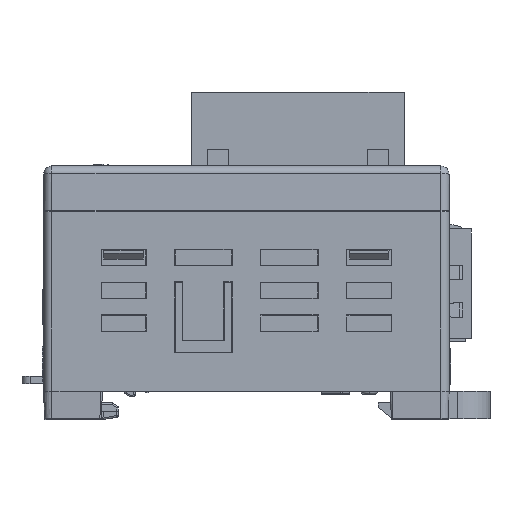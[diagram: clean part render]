
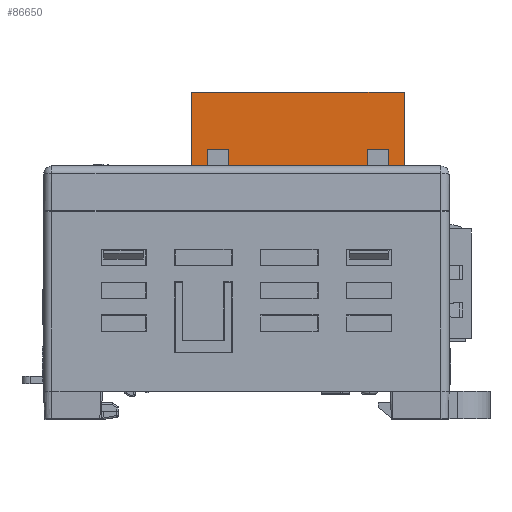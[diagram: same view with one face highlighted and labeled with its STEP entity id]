
A CAD part, left-side view. The second image highlights one B-rep face of the part: STEP entity #86650.
In plain terms, the highlighted planar face has unit normal (-1, 0, 0).
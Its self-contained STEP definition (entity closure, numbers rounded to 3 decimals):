
#954=DIRECTION('',(0.,0.,1.));
#955=VECTOR('',#954,12.5);
#956=CARTESIAN_POINT('',(-13.22,6.65,27.5));
#957=LINE('',#956,#955);
#1918=DIRECTION('',(0.,1.,0.));
#1919=VECTOR('',#1918,1.);
#1920=CARTESIAN_POINT('',(-13.22,-19.25,27.5));
#1921=LINE('',#1920,#1919);
#1934=DIRECTION('',(0.,1.,0.));
#1935=VECTOR('',#1934,1.);
#1936=CARTESIAN_POINT('',(-13.22,-13.3,27.5));
#1937=LINE('',#1936,#1935);
#1950=DIRECTION('',(0.,1.,0.));
#1951=VECTOR('',#1950,1.);
#1952=CARTESIAN_POINT('',(-13.22,-6.8,27.5));
#1953=LINE('',#1952,#1951);
#1966=DIRECTION('',(0.,1.,0.));
#1967=VECTOR('',#1966,1.);
#1968=CARTESIAN_POINT('',(-13.22,-0.3,27.5));
#1969=LINE('',#1968,#1967);
#1982=DIRECTION('',(0.,1.,0.));
#1983=VECTOR('',#1982,1.);
#1984=CARTESIAN_POINT('',(-13.22,5.65,27.5));
#1985=LINE('',#1984,#1983);
#9132=DIRECTION('',(0.,-1.,0.));
#9133=VECTOR('',#9132,0.9);
#9134=CARTESIAN_POINT('',(-13.22,-17.35,28.));
#9135=LINE('',#9134,#9133);
#9136=DIRECTION('',(0.,-1.,0.));
#9137=VECTOR('',#9136,2.6);
#9138=CARTESIAN_POINT('',(-13.22,-14.75,33.));
#9139=LINE('',#9138,#9137);
#9140=DIRECTION('',(0.,0.,1.));
#9141=VECTOR('',#9140,5.);
#9142=CARTESIAN_POINT('',(-13.22,-14.75,28.));
#9143=LINE('',#9142,#9141);
#9144=DIRECTION('',(0.,-1.,0.));
#9145=VECTOR('',#9144,1.45);
#9146=CARTESIAN_POINT('',(-13.22,-13.3,28.));
#9147=LINE('',#9146,#9145);
#9148=DIRECTION('',(0.,-1.,0.));
#9149=VECTOR('',#9148,5.5);
#9150=CARTESIAN_POINT('',(-13.22,-6.8,28.));
#9151=LINE('',#9150,#9149);
#9152=DIRECTION('',(0.,-1.,0.));
#9153=VECTOR('',#9152,5.5);
#9154=CARTESIAN_POINT('',(-13.22,-0.3,28.));
#9155=LINE('',#9154,#9153);
#9156=DIRECTION('',(0.,-1.,0.));
#9157=VECTOR('',#9156,1.45);
#9158=CARTESIAN_POINT('',(-13.22,2.15,28.));
#9159=LINE('',#9158,#9157);
#9160=DIRECTION('',(0.,-1.,0.));
#9161=VECTOR('',#9160,0.9);
#9162=CARTESIAN_POINT('',(-13.22,5.65,28.));
#9163=LINE('',#9162,#9161);
#9172=DIRECTION('',(0.,0.,1.));
#9173=VECTOR('',#9172,0.5);
#9174=CARTESIAN_POINT('',(-13.22,-18.25,27.5));
#9175=LINE('',#9174,#9173);
#9188=DIRECTION('',(0.,0.,-1.));
#9189=VECTOR('',#9188,12.5);
#9190=CARTESIAN_POINT('',(-13.22,-19.25,40.));
#9191=LINE('',#9190,#9189);
#9564=DIRECTION('',(0.,0.,-1.));
#9565=VECTOR('',#9564,5.);
#9566=CARTESIAN_POINT('',(-13.22,-17.35,33.));
#9567=LINE('',#9566,#9565);
#9900=DIRECTION('',(0.,0.,1.));
#9901=VECTOR('',#9900,5.);
#9902=CARTESIAN_POINT('',(-13.22,4.75,28.));
#9903=LINE('',#9902,#9901);
#9920=DIRECTION('',(0.,-1.,0.));
#9921=VECTOR('',#9920,2.6);
#9922=CARTESIAN_POINT('',(-13.22,4.75,33.));
#9923=LINE('',#9922,#9921);
#9928=DIRECTION('',(0.,0.,-1.));
#9929=VECTOR('',#9928,5.);
#9930=CARTESIAN_POINT('',(-13.22,2.15,33.));
#9931=LINE('',#9930,#9929);
#13024=DIRECTION('',(0.,-1.,0.));
#13025=VECTOR('',#13024,25.9);
#13026=CARTESIAN_POINT('',(-13.22,6.65,40.));
#13027=LINE('',#13026,#13025);
#13132=DIRECTION('',(0.,0.,-1.));
#13133=VECTOR('',#13132,0.5);
#13134=CARTESIAN_POINT('',(-13.22,-13.3,28.));
#13135=LINE('',#13134,#13133);
#13156=DIRECTION('',(0.,0.,1.));
#13157=VECTOR('',#13156,0.5);
#13158=CARTESIAN_POINT('',(-13.22,-12.3,27.5));
#13159=LINE('',#13158,#13157);
#13160=DIRECTION('',(0.,0.,-1.));
#13161=VECTOR('',#13160,0.5);
#13162=CARTESIAN_POINT('',(-13.22,-6.8,28.));
#13163=LINE('',#13162,#13161);
#13184=DIRECTION('',(0.,0.,1.));
#13185=VECTOR('',#13184,0.5);
#13186=CARTESIAN_POINT('',(-13.22,-5.8,27.5));
#13187=LINE('',#13186,#13185);
#13188=DIRECTION('',(0.,0.,-1.));
#13189=VECTOR('',#13188,0.5);
#13190=CARTESIAN_POINT('',(-13.22,-0.3,28.));
#13191=LINE('',#13190,#13189);
#13212=DIRECTION('',(0.,0.,1.));
#13213=VECTOR('',#13212,0.5);
#13214=CARTESIAN_POINT('',(-13.22,0.7,27.5));
#13215=LINE('',#13214,#13213);
#13216=DIRECTION('',(0.,0.,-1.));
#13217=VECTOR('',#13216,0.5);
#13218=CARTESIAN_POINT('',(-13.22,5.65,28.));
#13219=LINE('',#13218,#13217);
#60143=CARTESIAN_POINT('',(-13.22,-14.75,28.));
#60145=VERTEX_POINT('',#60143);
#60148=CARTESIAN_POINT('',(-13.22,-17.35,28.));
#60149=VERTEX_POINT('',#60148);
#60150=CARTESIAN_POINT('',(-13.22,-18.25,28.));
#60151=VERTEX_POINT('',#60150);
#60228=CARTESIAN_POINT('',(-13.22,5.65,28.));
#60229=VERTEX_POINT('',#60228);
#60230=CARTESIAN_POINT('',(-13.22,4.75,28.));
#60231=VERTEX_POINT('',#60230);
#60236=CARTESIAN_POINT('',(-13.22,2.15,28.));
#60237=VERTEX_POINT('',#60236);
#60238=CARTESIAN_POINT('',(-13.22,0.7,28.));
#60239=VERTEX_POINT('',#60238);
#60244=CARTESIAN_POINT('',(-13.22,-0.3,28.));
#60245=VERTEX_POINT('',#60244);
#60246=CARTESIAN_POINT('',(-13.22,-5.8,28.));
#60247=VERTEX_POINT('',#60246);
#60252=CARTESIAN_POINT('',(-13.22,-6.8,28.));
#60253=VERTEX_POINT('',#60252);
#60254=CARTESIAN_POINT('',(-13.22,-12.3,28.));
#60255=VERTEX_POINT('',#60254);
#60260=CARTESIAN_POINT('',(-13.22,-13.3,28.));
#60261=VERTEX_POINT('',#60260);
#61264=CARTESIAN_POINT('',(-13.22,-17.35,33.));
#61265=VERTEX_POINT('',#61264);
#61266=CARTESIAN_POINT('',(-13.22,-14.75,33.));
#61267=VERTEX_POINT('',#61266);
#61268=CARTESIAN_POINT('',(-13.22,2.15,33.));
#61269=VERTEX_POINT('',#61268);
#61270=CARTESIAN_POINT('',(-13.22,4.75,33.));
#61271=VERTEX_POINT('',#61270);
#61272=CARTESIAN_POINT('',(-13.22,6.65,40.));
#61273=CARTESIAN_POINT('',(-13.22,-19.25,40.));
#61274=VERTEX_POINT('',#61272);
#61275=VERTEX_POINT('',#61273);
#69721=CARTESIAN_POINT('',(-13.22,-19.25,27.5));
#69722=CARTESIAN_POINT('',(-13.22,-18.25,27.5));
#69723=VERTEX_POINT('',#69721);
#69724=VERTEX_POINT('',#69722);
#69725=CARTESIAN_POINT('',(-13.22,-13.3,27.5));
#69726=CARTESIAN_POINT('',(-13.22,-12.3,27.5));
#69727=VERTEX_POINT('',#69725);
#69728=VERTEX_POINT('',#69726);
#69729=CARTESIAN_POINT('',(-13.22,-6.8,27.5));
#69730=CARTESIAN_POINT('',(-13.22,-5.8,27.5));
#69731=VERTEX_POINT('',#69729);
#69732=VERTEX_POINT('',#69730);
#69733=CARTESIAN_POINT('',(-13.22,-0.3,27.5));
#69734=CARTESIAN_POINT('',(-13.22,0.7,27.5));
#69735=VERTEX_POINT('',#69733);
#69736=VERTEX_POINT('',#69734);
#69737=CARTESIAN_POINT('',(-13.22,5.65,27.5));
#69738=CARTESIAN_POINT('',(-13.22,6.65,27.5));
#69739=VERTEX_POINT('',#69737);
#69740=VERTEX_POINT('',#69738);
#86600=CARTESIAN_POINT('',(-13.22,-6.3,33.5));
#86601=DIRECTION('',(1.,0.,0.));
#86602=DIRECTION('',(0.,0.,-1.));
#86603=AXIS2_PLACEMENT_3D('',#86600,#86601,#86602);
#86604=PLANE('',#86603);
#86605=ORIENTED_EDGE('',*,*,#72657,.T.);
#86607=ORIENTED_EDGE('',*,*,#86606,.T.);
#86608=ORIENTED_EDGE('',*,*,#85932,.F.);
#86610=ORIENTED_EDGE('',*,*,#86609,.F.);
#86612=ORIENTED_EDGE('',*,*,#86611,.F.);
#86613=ORIENTED_EDGE('',*,*,#86582,.F.);
#86614=ORIENTED_EDGE('',*,*,#86043,.F.);
#86616=ORIENTED_EDGE('',*,*,#86615,.T.);
#86617=ORIENTED_EDGE('',*,*,#72667,.T.);
#86619=ORIENTED_EDGE('',*,*,#86618,.T.);
#86620=ORIENTED_EDGE('',*,*,#86035,.F.);
#86622=ORIENTED_EDGE('',*,*,#86621,.T.);
#86623=ORIENTED_EDGE('',*,*,#72677,.T.);
#86625=ORIENTED_EDGE('',*,*,#86624,.T.);
#86626=ORIENTED_EDGE('',*,*,#86027,.F.);
#86628=ORIENTED_EDGE('',*,*,#86627,.T.);
#86629=ORIENTED_EDGE('',*,*,#72687,.T.);
#86631=ORIENTED_EDGE('',*,*,#86630,.T.);
#86632=ORIENTED_EDGE('',*,*,#86019,.F.);
#86634=ORIENTED_EDGE('',*,*,#86633,.F.);
#86636=ORIENTED_EDGE('',*,*,#86635,.F.);
#86638=ORIENTED_EDGE('',*,*,#86637,.F.);
#86639=ORIENTED_EDGE('',*,*,#86011,.F.);
#86641=ORIENTED_EDGE('',*,*,#86640,.T.);
#86642=ORIENTED_EDGE('',*,*,#72697,.T.);
#86643=ORIENTED_EDGE('',*,*,#71842,.T.);
#86645=ORIENTED_EDGE('',*,*,#86644,.T.);
#86647=ORIENTED_EDGE('',*,*,#86646,.T.);
#86648=EDGE_LOOP('',(#86605,#86607,#86608,#86610,#86612,#86613,#86614,#86616,
#86617,#86619,#86620,#86622,#86623,#86625,#86626,#86628,#86629,#86631,#86632,
#86634,#86636,#86638,#86639,#86641,#86642,#86643,#86645,#86647));
#86649=FACE_OUTER_BOUND('',#86648,.F.);
#86650=ADVANCED_FACE('',(#86649),#86604,.F.);
#71842=EDGE_CURVE('',#69740,#61274,#957,.T.);
#72657=EDGE_CURVE('',#69723,#69724,#1921,.T.);
#72667=EDGE_CURVE('',#69727,#69728,#1937,.T.);
#72677=EDGE_CURVE('',#69731,#69732,#1953,.T.);
#72687=EDGE_CURVE('',#69735,#69736,#1969,.T.);
#72697=EDGE_CURVE('',#69739,#69740,#1985,.T.);
#85932=EDGE_CURVE('',#60149,#60151,#9135,.T.);
#86011=EDGE_CURVE('',#60229,#60231,#9163,.T.);
#86019=EDGE_CURVE('',#60237,#60239,#9159,.T.);
#86027=EDGE_CURVE('',#60245,#60247,#9155,.T.);
#86035=EDGE_CURVE('',#60253,#60255,#9151,.T.);
#86043=EDGE_CURVE('',#60261,#60145,#9147,.T.);
#86582=EDGE_CURVE('',#60145,#61267,#9143,.T.);
#86606=EDGE_CURVE('',#69724,#60151,#9175,.T.);
#86609=EDGE_CURVE('',#61265,#60149,#9567,.T.);
#86611=EDGE_CURVE('',#61267,#61265,#9139,.T.);
#86615=EDGE_CURVE('',#60261,#69727,#13135,.T.);
#86618=EDGE_CURVE('',#69728,#60255,#13159,.T.);
#86621=EDGE_CURVE('',#60253,#69731,#13163,.T.);
#86624=EDGE_CURVE('',#69732,#60247,#13187,.T.);
#86627=EDGE_CURVE('',#60245,#69735,#13191,.T.);
#86630=EDGE_CURVE('',#69736,#60239,#13215,.T.);
#86633=EDGE_CURVE('',#61269,#60237,#9931,.T.);
#86635=EDGE_CURVE('',#61271,#61269,#9923,.T.);
#86637=EDGE_CURVE('',#60231,#61271,#9903,.T.);
#86640=EDGE_CURVE('',#60229,#69739,#13219,.T.);
#86644=EDGE_CURVE('',#61274,#61275,#13027,.T.);
#86646=EDGE_CURVE('',#61275,#69723,#9191,.T.);
